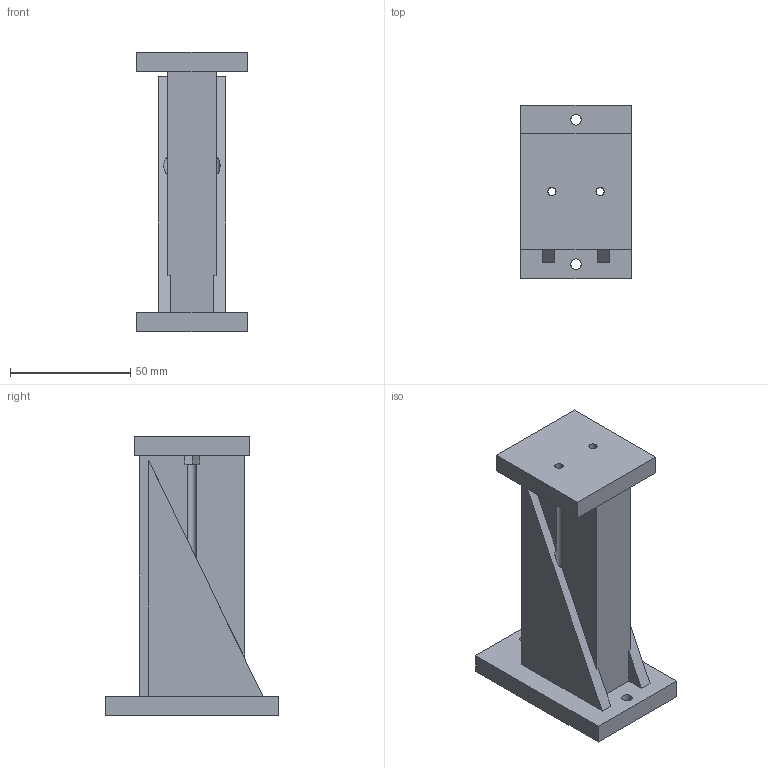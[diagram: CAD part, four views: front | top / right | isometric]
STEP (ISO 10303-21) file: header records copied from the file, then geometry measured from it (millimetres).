
FILE_DESCRIPTION(('Open CASCADE Model'),'2;1');
FILE_NAME('Open CASCADE Shape Model','2026-10-21T12:04:47',('Author'),( 'Open CASCADE'),'Open CASCADE STEP processor 7.9','Open CASCADE 7.9' ,'Unknown');
FILE_SCHEMA(('AUTOMOTIVE_DESIGN { 1 0 10303 214 1 1 1 1 }'));
Length unit declared in the file: millimetre
Products named in the file (1): Open CASCADE STEP translator 7.9 21
Bounding box: 46 x 72 x 116 mm (x, y, z)
Volume: 148834.6 mm3; surface area: 28915.3 mm2
Topology: 1 solids, 1 shells, 42 faces, 120 edges, 80 vertices
Faces by surface type: plane 36, cylinder 6
Full cylindrical faces by diameter (mm): 3.4 x4, 4.4 x2
Entity records: 3029 total; most frequent: CARTESIAN_POINT 597, DIRECTION 448, LINE 325, VECTOR 325, ORIENTED_EDGE 240, PCURVE 240, DEFINITIONAL_REPRESENTATION 240, EDGE_CURVE 120
